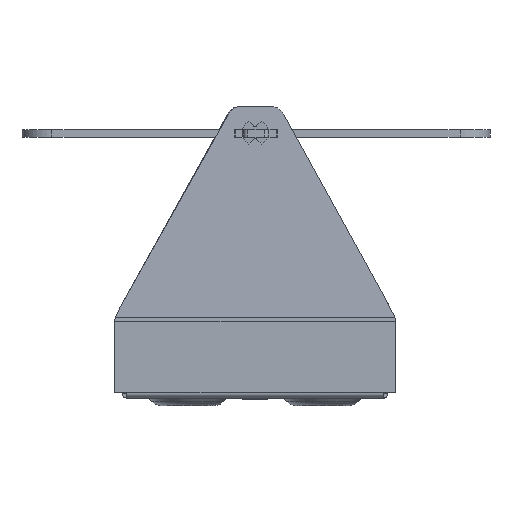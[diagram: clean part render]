
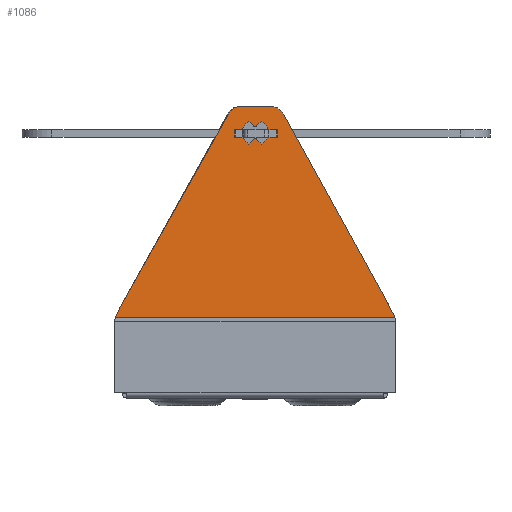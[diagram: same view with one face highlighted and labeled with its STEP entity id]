
A CAD part, left-side view. The second image highlights one B-rep face of the part: STEP entity #1086.
In plain terms, the highlighted planar face has unit normal (-0.999, 0, 0.035).
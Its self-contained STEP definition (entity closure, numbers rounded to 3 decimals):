
#27 = CARTESIAN_POINT ( 'NONE',  ( -0.11, 71.75, 21.551 ) ) ;
#41 = CARTESIAN_POINT ( 'NONE',  ( 1.688, 34.25, 73.041 ) ) ;
#134 = CARTESIAN_POINT ( 'NONE',  ( -0.078, 71.242, 22.46 ) ) ;
#147 = DIRECTION ( 'NONE',  ( 0.035, 0., 0.999 ) ) ;
#238 = CARTESIAN_POINT ( 'NONE',  ( -0.808, 0., 1.564 ) ) ;
#240 = LINE ( 'NONE', #3883, #1641 ) ;
#444 = EDGE_CURVE ( 'NONE', #3399, #4580, #5694, .T. ) ;
#496 = VERTEX_POINT ( 'NONE', #4210 ) ;
#622 = CARTESIAN_POINT ( 'NONE',  ( 1.719, 37.902, 73.92 ) ) ;
#632 = DIRECTION ( 'NONE',  ( 0., 1., 0. ) ) ;
#662 = VERTEX_POINT ( 'NONE', #2353 ) ;
#670 = CARTESIAN_POINT ( 'NONE',  ( 1.507, 35.915, 67.844 ) ) ;
#732 = DIRECTION ( 'NONE',  ( -0.035, 0., -0.999 ) ) ;
#850 = LINE ( 'NONE', #2073, #8121 ) ;
#895 = CARTESIAN_POINT ( 'NONE',  ( 1.676, 34.604, 72.688 ) ) ;
#906 = PLANE ( 'NONE',  #7232 ) ;
#935 = ORIENTED_EDGE ( 'NONE', *, *, #6528, .T. ) ;
#948 = ORIENTED_EDGE ( 'NONE', *, *, #4310, .T. ) ;
#990 = DIRECTION ( 'NONE',  ( -0.999, 0., 0.035 ) ) ;
#1051 = EDGE_LOOP ( 'NONE', ( #3576, #6607, #1502, #4546, #4157, #6354, #7457, #2360 ) ) ;
#1062 = DIRECTION ( 'NONE',  ( 0., -1., 0. ) ) ;
#1066 = CARTESIAN_POINT ( 'NONE',  ( 1.787, 41.395, 75.869 ) ) ;
#1081 = CIRCLE ( 'NONE', #6219, 4. ) ;
#1086 = ADVANCED_FACE ( 'NONE', ( #7506, #2057 ), #906, .T. ) ;
#1128 = EDGE_CURVE ( 'NONE', #8315, #3399, #5244, .T. ) ;
#1181 = LINE ( 'NONE', #27, #6438 ) ;
#1265 = LINE ( 'NONE', #5853, #8542 ) ;
#1266 = VERTEX_POINT ( 'NONE', #1066 ) ;
#1314 = DIRECTION ( 'NONE',  ( 0.035, 0., 0.999 ) ) ;
#1500 = EDGE_CURVE ( 'NONE', #4667, #662, #6845, .T. ) ;
#1502 = ORIENTED_EDGE ( 'NONE', *, *, #2017, .F. ) ;
#1571 = DIRECTION ( 'NONE',  ( 0.035, 0., 0.999 ) ) ;
#1641 = VECTOR ( 'NONE', #4543, 1000. ) ;
#1656 = DIRECTION ( 'NONE',  ( -0.999, 0., 0.035 ) ) ;
#1678 = AXIS2_PLACEMENT_3D ( 'NONE', #7912, #3812, #8600 ) ;
#1698 = CARTESIAN_POINT ( 'NONE',  ( 1.552, 34.604, 69.155 ) ) ;
#1767 = CARTESIAN_POINT ( 'NONE',  ( 1.614, 34.25, 70.921 ) ) ;
#1945 = CIRCLE ( 'NONE', #8212, 0.5 ) ;
#2017 = EDGE_CURVE ( 'NONE', #8713, #3933, #240, .T. ) ;
#2057 = FACE_BOUND ( 'NONE', #7057, .T. ) ;
#2073 = CARTESIAN_POINT ( 'NONE',  ( 1.676, 33.896, 72.688 ) ) ;
#2080 = VERTEX_POINT ( 'NONE', #2590 ) ;
#2146 = VERTEX_POINT ( 'NONE', #670 ) ;
#2328 = ORIENTED_EDGE ( 'NONE', *, *, #1128, .T. ) ;
#2353 = CARTESIAN_POINT ( 'NONE',  ( 1.552, 33.896, 69.155 ) ) ;
#2360 = ORIENTED_EDGE ( 'NONE', *, *, #6936, .T. ) ;
#2386 = DIRECTION ( 'NONE',  ( -0.025, 0.707, -0.707 ) ) ;
#2455 = DIRECTION ( 'NONE',  ( 0.035, 0., 0.999 ) ) ;
#2590 = CARTESIAN_POINT ( 'NONE',  ( 1.721, 32.585, 73.998 ) ) ;
#2674 = VERTEX_POINT ( 'NONE', #6204 ) ;
#2684 = CIRCLE ( 'NONE', #8388, 3.5 ) ;
#2740 = DIRECTION ( 'NONE',  ( 0.03, -0.488, 0.873 ) ) ;
#2857 = ORIENTED_EDGE ( 'NONE', *, *, #1500, .T. ) ;
#2867 = VERTEX_POINT ( 'NONE', #134 ) ;
#3052 = CIRCLE ( 'NONE', #7217, 4. ) ;
#3092 = EDGE_CURVE ( 'NONE', #3950, #6440, #1265, .T. ) ;
#3130 = ORIENTED_EDGE ( 'NONE', *, *, #8540, .T. ) ;
#3244 = EDGE_CURVE ( 'NONE', #5997, #2674, #3619, .T. ) ;
#3263 = DIRECTION ( 'NONE',  ( 0.999, 0., -0.035 ) ) ;
#3326 = ORIENTED_EDGE ( 'NONE', *, *, #7746, .T. ) ;
#3386 = VECTOR ( 'NONE', #632, 1000. ) ;
#3399 = VERTEX_POINT ( 'NONE', #6327 ) ;
#3418 = VECTOR ( 'NONE', #5676, 1000. ) ;
#3487 = CARTESIAN_POINT ( 'NONE',  ( 1.721, 35.915, 73.998 ) ) ;
#3576 = ORIENTED_EDGE ( 'NONE', *, *, #3244, .F. ) ;
#3619 = LINE ( 'NONE', #4048, #3386 ) ;
#3756 = CARTESIAN_POINT ( 'NONE',  ( 1.688, 34.25, 73.041 ) ) ;
#3812 = DIRECTION ( 'NONE',  ( -0.999, 0., 0.035 ) ) ;
#3842 = EDGE_CURVE ( 'NONE', #5997, #3933, #3052, .T. ) ;
#3883 = CARTESIAN_POINT ( 'NONE',  ( 1.858, 27.75, 77.917 ) ) ;
#3896 = DIRECTION ( 'NONE',  ( -0.999, 0., 0.035 ) ) ;
#3933 = VERTEX_POINT ( 'NONE', #4989 ) ;
#3950 = VERTEX_POINT ( 'NONE', #5734 ) ;
#4048 = CARTESIAN_POINT ( 'NONE',  ( -0.109, 0., 21.576 ) ) ;
#4157 = ORIENTED_EDGE ( 'NONE', *, *, #3092, .F. ) ;
#4210 = CARTESIAN_POINT ( 'NONE',  ( 1.552, 34.604, 69.155 ) ) ;
#4249 = DIRECTION ( 'NONE',  ( -0.999, 0., 0.035 ) ) ;
#4310 = EDGE_CURVE ( 'NONE', #496, #2146, #7226, .T. ) ;
#4361 = EDGE_CURVE ( 'NONE', #8713, #6440, #7026, .T. ) ;
#4427 = DIRECTION ( 'NONE',  ( -0.035, 0., -0.999 ) ) ;
#4531 = AXIS2_PLACEMENT_3D ( 'NONE', #7386, #3263, #8066 ) ;
#4543 = DIRECTION ( 'NONE',  ( -0.031, -0.482, -0.876 ) ) ;
#4546 = ORIENTED_EDGE ( 'NONE', *, *, #4361, .T. ) ;
#4580 = VERTEX_POINT ( 'NONE', #7431 ) ;
#4667 = VERTEX_POINT ( 'NONE', #5483 ) ;
#4687 = ORIENTED_EDGE ( 'NONE', *, *, #6668, .T. ) ;
#4819 = DIRECTION ( 'NONE',  ( -0.999, 0., 0.035 ) ) ;
#4866 = AXIS2_PLACEMENT_3D ( 'NONE', #622, #5402, #1314 ) ;
#4989 = CARTESIAN_POINT ( 'NONE',  ( -0.079, -2.755, 22.451 ) ) ;
#5026 = VECTOR ( 'NONE', #6778, 1000. ) ;
#5074 = CARTESIAN_POINT ( 'NONE',  ( 1.54, 34.25, 68.801 ) ) ;
#5198 = CARTESIAN_POINT ( 'NONE',  ( -0.109, -3.109, 21.576 ) ) ;
#5244 = LINE ( 'NONE', #895, #3418 ) ;
#5247 = CARTESIAN_POINT ( 'NONE',  ( 1.786, 26.61, 75.845 ) ) ;
#5312 = CARTESIAN_POINT ( 'NONE',  ( 1.676, 33.896, 72.688 ) ) ;
#5402 = DIRECTION ( 'NONE',  ( -0.999, 0., 0.035 ) ) ;
#5473 = CIRCLE ( 'NONE', #4531, 3.5 ) ;
#5483 = CARTESIAN_POINT ( 'NONE',  ( 1.507, 32.585, 67.844 ) ) ;
#5676 = DIRECTION ( 'NONE',  ( -0.025, -0.707, -0.707 ) ) ;
#5694 = CIRCLE ( 'NONE', #7760, 0.5 ) ;
#5734 = CARTESIAN_POINT ( 'NONE',  ( 1.858, 37.902, 77.917 ) ) ;
#5784 = DIRECTION ( 'NONE',  ( 0.035, 0., 0.999 ) ) ;
#5853 = CARTESIAN_POINT ( 'NONE',  ( 1.858, 40.25, 77.917 ) ) ;
#5997 = VERTEX_POINT ( 'NONE', #5198 ) ;
#6204 = CARTESIAN_POINT ( 'NONE',  ( -0.109, 71.605, 21.576 ) ) ;
#6219 = AXIS2_PLACEMENT_3D ( 'NONE', #7991, #3896, #8685 ) ;
#6327 = CARTESIAN_POINT ( 'NONE',  ( 1.676, 34.604, 72.688 ) ) ;
#6354 = ORIENTED_EDGE ( 'NONE', *, *, #8226, .T. ) ;
#6438 = VECTOR ( 'NONE', #2740, 1000. ) ;
#6440 = VERTEX_POINT ( 'NONE', #8496 ) ;
#6528 = EDGE_CURVE ( 'NONE', #2080, #4667, #2684, .T. ) ;
#6548 = DIRECTION ( 'NONE',  ( 0.999, 0., -0.035 ) ) ;
#6607 = ORIENTED_EDGE ( 'NONE', *, *, #3842, .T. ) ;
#6668 = EDGE_CURVE ( 'NONE', #2146, #8315, #5473, .T. ) ;
#6778 = DIRECTION ( 'NONE',  ( 0.025, 0.707, 0.707 ) ) ;
#6819 = EDGE_CURVE ( 'NONE', #4580, #7600, #1945, .T. ) ;
#6825 = CARTESIAN_POINT ( 'NONE',  ( 1.552, 33.896, 69.155 ) ) ;
#6838 = DIRECTION ( 'NONE',  ( 0.025, -0.707, 0.707 ) ) ;
#6845 = LINE ( 'NONE', #6825, #5026 ) ;
#6936 = EDGE_CURVE ( 'NONE', #2867, #2674, #1081, .T. ) ;
#7010 = AXIS2_PLACEMENT_3D ( 'NONE', #5074, #990, #5784 ) ;
#7013 = CIRCLE ( 'NONE', #4866, 4. ) ;
#7026 = CIRCLE ( 'NONE', #1678, 4. ) ;
#7057 = EDGE_LOOP ( 'NONE', ( #8701, #8760, #3326, #935, #2857, #3130, #948, #4687, #2328 ) ) ;
#7207 = EDGE_CURVE ( 'NONE', #2867, #1266, #1181, .T. ) ;
#7217 = AXIS2_PLACEMENT_3D ( 'NONE', #8342, #4249, #147 ) ;
#7226 = LINE ( 'NONE', #1698, #8841 ) ;
#7232 = AXIS2_PLACEMENT_3D ( 'NONE', #238, #1656, #1571 ) ;
#7386 = CARTESIAN_POINT ( 'NONE',  ( 1.614, 34.25, 70.921 ) ) ;
#7431 = CARTESIAN_POINT ( 'NONE',  ( 1.671, 34.25, 72.542 ) ) ;
#7457 = ORIENTED_EDGE ( 'NONE', *, *, #7207, .F. ) ;
#7506 = FACE_OUTER_BOUND ( 'NONE', #1051, .T. ) ;
#7600 = VERTEX_POINT ( 'NONE', #5312 ) ;
#7746 = EDGE_CURVE ( 'NONE', #7600, #2080, #850, .T. ) ;
#7760 = AXIS2_PLACEMENT_3D ( 'NONE', #41, #4819, #732 ) ;
#7912 = CARTESIAN_POINT ( 'NONE',  ( 1.719, 30.116, 73.92 ) ) ;
#7979 = CIRCLE ( 'NONE', #7010, 0.5 ) ;
#7991 = CARTESIAN_POINT ( 'NONE',  ( -0.146, 67.75, 20.511 ) ) ;
#8066 = DIRECTION ( 'NONE',  ( -0.035, 0., -0.999 ) ) ;
#8121 = VECTOR ( 'NONE', #6838, 1000. ) ;
#8212 = AXIS2_PLACEMENT_3D ( 'NONE', #3756, #8528, #4427 ) ;
#8226 = EDGE_CURVE ( 'NONE', #3950, #1266, #7013, .T. ) ;
#8315 = VERTEX_POINT ( 'NONE', #3487 ) ;
#8342 = CARTESIAN_POINT ( 'NONE',  ( -0.146, 0.75, 20.525 ) ) ;
#8388 = AXIS2_PLACEMENT_3D ( 'NONE', #1767, #6548, #2455 ) ;
#8496 = CARTESIAN_POINT ( 'NONE',  ( 1.858, 30.116, 77.917 ) ) ;
#8528 = DIRECTION ( 'NONE',  ( -0.999, 0., 0.035 ) ) ;
#8540 = EDGE_CURVE ( 'NONE', #662, #496, #7979, .T. ) ;
#8542 = VECTOR ( 'NONE', #1062, 1000. ) ;
#8600 = DIRECTION ( 'NONE',  ( 0.035, 0., 0.999 ) ) ;
#8685 = DIRECTION ( 'NONE',  ( 0.035, 0., 0.999 ) ) ;
#8701 = ORIENTED_EDGE ( 'NONE', *, *, #444, .T. ) ;
#8713 = VERTEX_POINT ( 'NONE', #5247 ) ;
#8760 = ORIENTED_EDGE ( 'NONE', *, *, #6819, .T. ) ;
#8841 = VECTOR ( 'NONE', #2386, 1000. ) ;
